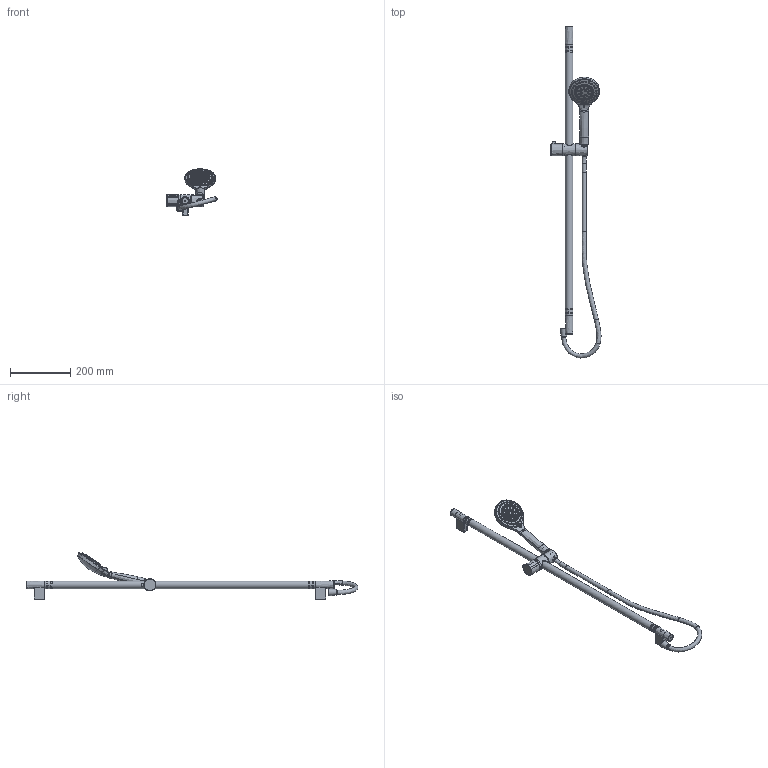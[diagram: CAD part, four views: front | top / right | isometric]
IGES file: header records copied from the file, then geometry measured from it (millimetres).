
Global section: file name: edd252bf-70fd-447b-88b4-70fef6786de8; native system: unknown; preprocessor: unknown; author: unknown; organization: unknown; date: 20200702.090457; units: millimetre
Bounding box: 166.43 x 1102.97 x 153.64 mm (x, y, z)
Volume: 431319.7 mm3; surface area: 396147.8 mm2
Topology: 20 solids, 20 shells, 2597 faces, 7340 edges, 5010 vertices
Faces by surface type: bspline 2597
